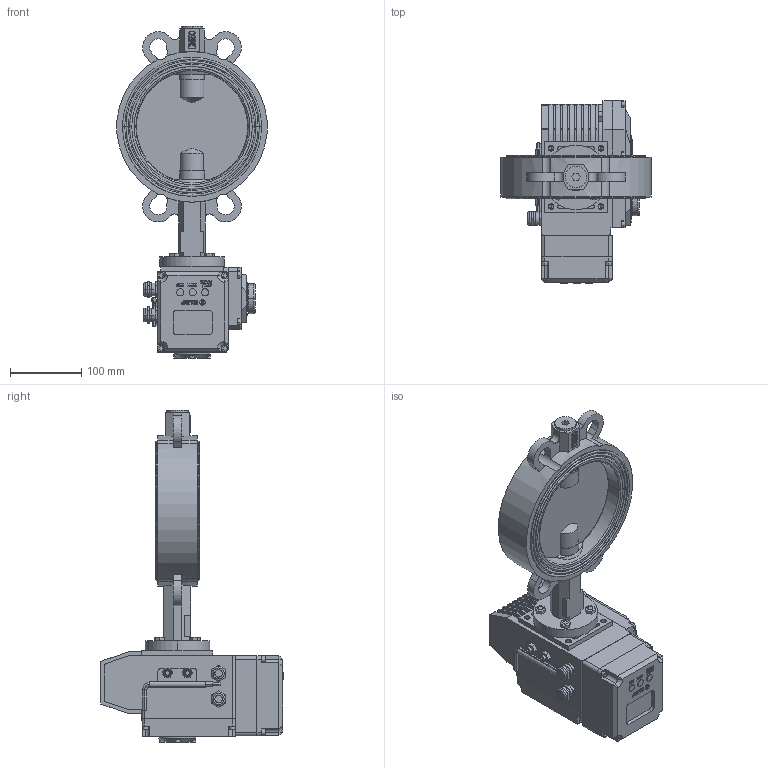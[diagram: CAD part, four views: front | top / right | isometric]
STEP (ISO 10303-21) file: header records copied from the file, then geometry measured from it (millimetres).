
FILE_DESCRIPTION((''),'2;1');
FILE_NAME('VBS_EAR_A_ASM','2025-02-22T',('AMD'),(''),'PRO/ENGINEER BY PARAMETRIC TECHNOLOGY CORPORATION, 2008020','PRO/ENGINEER BY PARAMETRIC TECHNOLOGY CORPORATION, 2008020','');
FILE_SCHEMA(('CONFIG_CONTROL_DESIGN'));
Length unit declared in the file: millimetre
Products named in the file (28): KORPUS; REZ; DISK; SHTIR_1; ZAGLUSHKA; O-RING; SHTIR_2; SHAIBA_RAZREZ; SHAIBA; KOLCO_30_GOST13943; VTULKA; MANZET_REZ; SB_ASM; B-7798-M8-25; DET_1; V-11738-M5; V-11738-M4; DET_2; KREPLENIE; KLUCH; DET_3; G-5915-M8; ELECTROPRIVOD_ASM; DET_4; DET_5; DISPLAY_ASM; ELECTROPRIVOD_WITH_DISPLAY_ASM; VBS_EAR_A_ASM
Assembly tree (53 placements, depth 4):
  VBS_EAR_A_ASM
    SB_ASM
      KORPUS
      REZ
      DISK
      SHTIR_1
      ZAGLUSHKA
      O-RING  x2
      SHTIR_2
      SHAIBA_RAZREZ
      SHAIBA  x2
      KOLCO_30_GOST13943
      VTULKA  x5
      MANZET_REZ
    B-7798-M8-25  x4
    ELECTROPRIVOD_WITH_DISPLAY_ASM
      ELECTROPRIVOD_ASM
        DET_1
        V-11738-M5  x10
        V-11738-M4  x4
        DET_2
        KREPLENIE
        KLUCH
        DET_3
        G-5915-M8  x2
      DISPLAY_ASM
        DET_4
        DET_5
        V-11738-M5  x4
Bounding box: 211.22 x 257 x 467.5 mm (x, y, z)
Volume: 4397210.6 mm3; surface area: 664349.9 mm2
Topology: 49 solids, 92 shells, 2828 faces, 7492 edges, 4945 vertices
Faces by surface type: plane 1862, cylinder 526, extrusion 300, cone 102, torus 38
Entity records: 78723 total; most frequent: CARTESIAN_POINT 16502, ORIENTED_EDGE 13128, DIRECTION 11816, EDGE_CURVE 6612, VECTOR 5222, LINE 4922, VERTEX_POINT 4379, AXIS2_PLACEMENT_3D 3297
